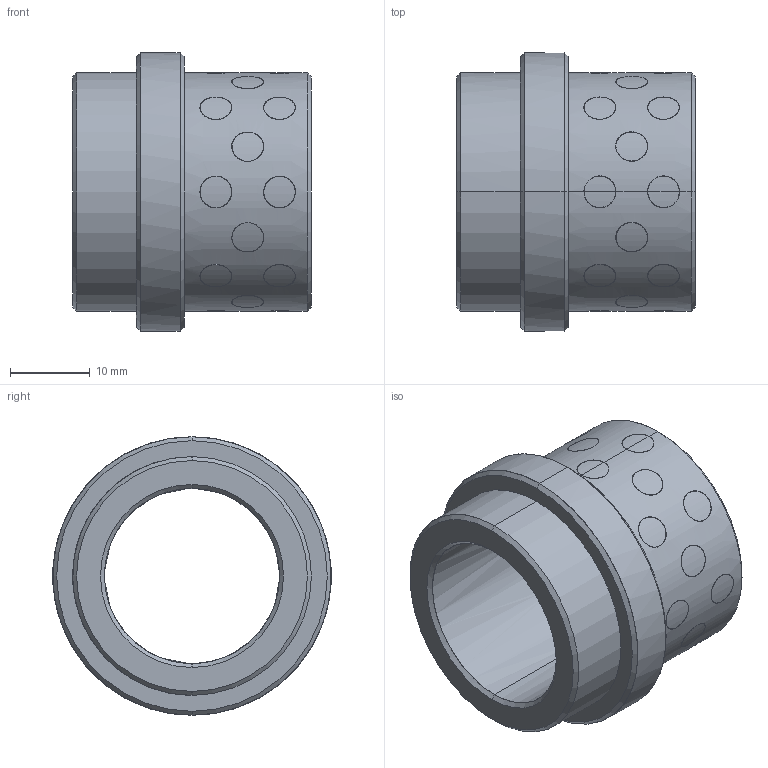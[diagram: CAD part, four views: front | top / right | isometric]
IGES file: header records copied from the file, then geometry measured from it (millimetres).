
Start section: START RECORD GO HERE.
Global section: file name: G31222022.igs; native system: DASSAULT SYSTEMES CATIA V5 R20 - www.3ds.com; preprocessor: CATIA Version 5 Release 20 ; author: r.borello; organization: CFTORINO; date: 20190624.121536; units: millimetre
Bounding box: 30 x 35 x 35 mm (x, y, z)
Surface area: 8395.5 mm2 (no closed solid volume)
Topology: 0 solids, 0 shells, 176 faces, 768 edges, 768 vertices
Faces by surface type: revolution 172, plane 4
